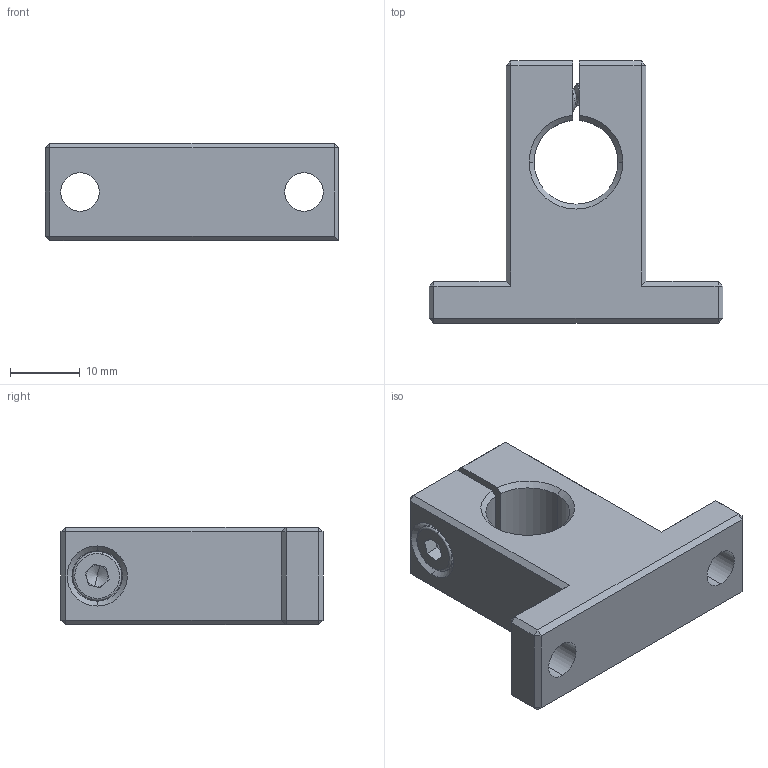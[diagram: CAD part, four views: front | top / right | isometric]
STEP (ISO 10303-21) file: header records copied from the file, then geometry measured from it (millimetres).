
FILE_DESCRIPTION (( 'STEP AP214' ), '1' );
FILE_NAME ('SK12.STEP', '2020-06-29T09:35:57', ( '' ), ( '' ), 'SwSTEP 2.0', 'SolidWorks 2018', '' );
FILE_SCHEMA (( 'AUTOMOTIVE_DESIGN' ));
Length unit declared in the file: millimetre
Products named in the file (3): SK12 Part2; SK12 Part1; SK12
Assembly tree (2 placements, depth 2):
  SK12
    SK12 Part1
    SK12 Part2
Bounding box: 42 x 37.5 x 14 mm (x, y, z)
Volume: 10126.8 mm3; surface area: 5022.9 mm2
Topology: 2 solids, 2 shells, 126 faces, 297 edges, 176 vertices
Faces by surface type: plane 62, cylinder 35, cone 19, bspline 6, torus 4
Entity records: 7544 total; most frequent: CARTESIAN_POINT 4655, ORIENTED_EDGE 590, DIRECTION 566, EDGE_CURVE 295, AXIS2_PLACEMENT_3D 196, VERTEX_POINT 176, LINE 174, VECTOR 174
